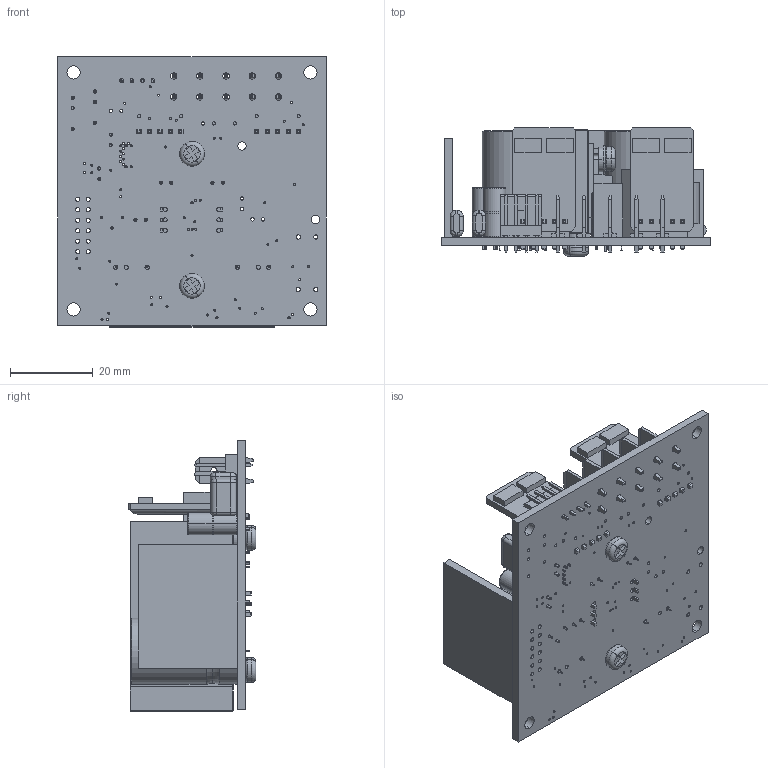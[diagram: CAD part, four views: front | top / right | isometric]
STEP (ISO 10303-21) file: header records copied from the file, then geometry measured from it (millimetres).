
FILE_DESCRIPTION (( 'STEP AP214' ), '1' );
FILE_NAME ('UcD180HG with HxR 02xx.STEP', '2020-11-18T07:11:27', ( '' ), ( '' ), 'SwSTEP 2.0', 'SolidWorks 2017', '' );
FILE_SCHEMA (( 'AUTOMOTIVE_DESIGN' ));
Length unit declared in the file: millimetre
Products named in the file (25): insring; iso_oxi; rood blokje; veerring; FCon; 6x12 2p5; RM8; PCB mini; 5x11 p2; UcD180HG PCB; HxR; 4pin; ringM3; nut; Hypex 16x26; UcD180HG with HxR 02xx; pot_blue; 3x20; nylon_insu; bead_hor; ECAP BC036; cap; TO220; fets compleet; UcD180_sink
Assembly tree (41 placements, depth 3):
  UcD180HG with HxR 02xx
    UcD180HG PCB
    UcD180_sink
    fets compleet
      TO220  x2
      iso_oxi  x2
      insring  x2
      nut
      3x20
      veerring
      ringM3  x2
    nylon_insu  x2
    RM8
    cap  x2
    bead_hor  x2
    FCon  x5
    4pin
    ECAP BC036  x2
    5x11 p2  x2
    PCB mini
    pot_blue
    Hypex 16x26  x2
    rood blokje
    6x12 2p5
    3x20  x2
    HxR  x2
Bounding box: 65 x 31 x 65.5 mm (x, y, z)
Volume: 44004.5 mm3; surface area: 31975.5 mm2
Topology: 49 solids, 284 shells, 1953 faces, 5582 edges, 3997 vertices
Faces by surface type: plane 1059, cylinder 662, bspline 130, torus 64, cone 30, sphere 8
Entity records: 63215 total; most frequent: CARTESIAN_POINT 14585, DIRECTION 7216, ORIENTED_EDGE 6676, EDGE_CURVE 3962, VERTEX_POINT 2975, AXIS2_PLACEMENT_3D 2414, LINE 2388, VECTOR 2388
